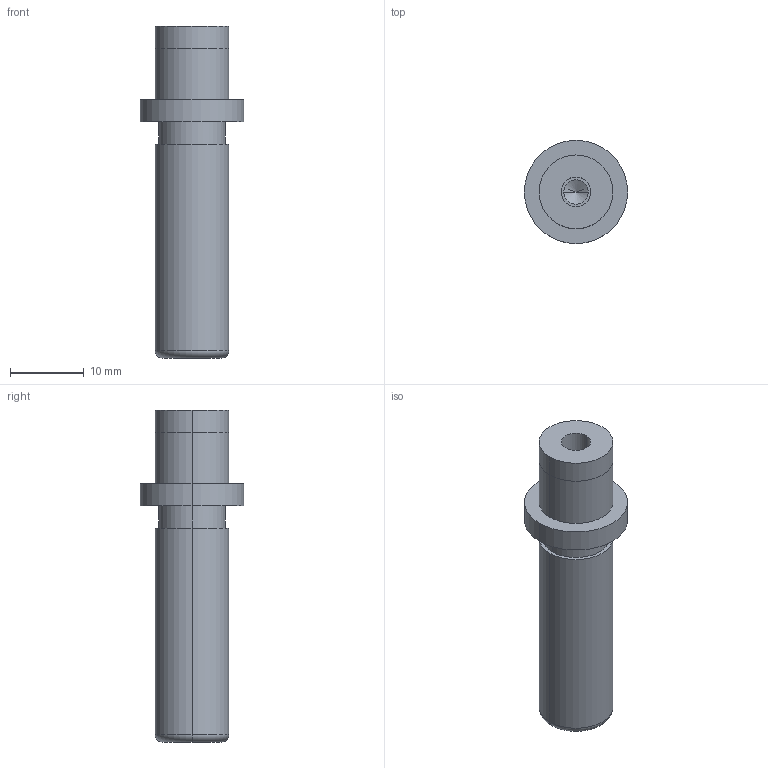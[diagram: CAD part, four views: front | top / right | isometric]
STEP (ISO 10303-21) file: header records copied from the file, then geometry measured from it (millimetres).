
FILE_DESCRIPTION(/* description */ (''),/* implementation_level */ '2;1');
FILE_NAME(/* name */ '3d_sgpw10-35_05269_r00.stp',/* time_stamp */ '2011-01-10T14:11:06+09:00',/* author */ ('MISUMI'),/* organization */ (''),/* preprocessor_version */ 'ST-DEVELOPER v11',/* originating_system */ 'UGS - NX 5.0',/* authorisation */ '');
FILE_SCHEMA (('CONFIG_CONTROL_DESIGN'));
Length unit declared in the file: millimetre
Products named in the file (1): 3d_sgpw10-35_05269_r00
Bounding box: 14 x 14 x 45 mm (x, y, z)
Volume: 3418.3 mm3; surface area: 2061.2 mm2
Topology: 1 solids, 1 shells, 31 faces, 64 edges, 38 vertices
Faces by surface type: cylinder 18, plane 7, cone 4, torus 2
Entity records: 890 total; most frequent: DIRECTION 162, CARTESIAN_POINT 130, ORIENTED_EDGE 120, AXIS2_PLACEMENT_3D 70, EDGE_CURVE 60, EDGE_LOOP 38, CIRCLE 38, VERTEX_POINT 38
